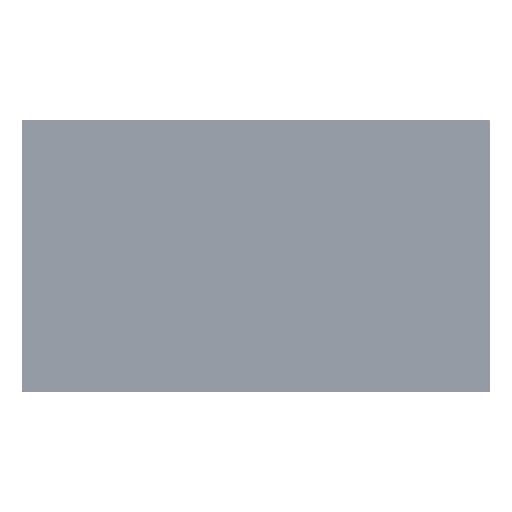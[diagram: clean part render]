
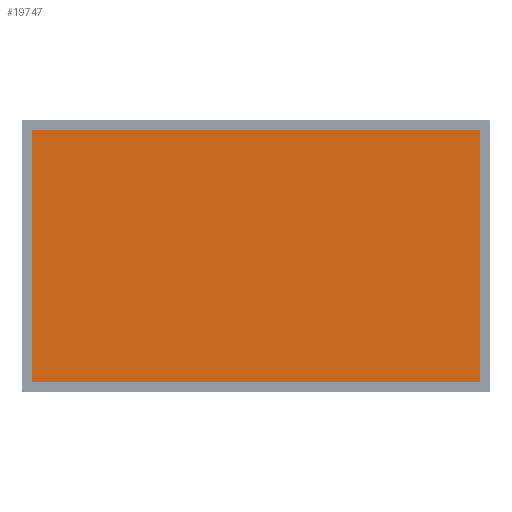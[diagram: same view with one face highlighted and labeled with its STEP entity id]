
A CAD part, top view. The second image highlights one B-rep face of the part: STEP entity #19747.
In plain terms, the highlighted planar face has unit normal (0, 0, 1).
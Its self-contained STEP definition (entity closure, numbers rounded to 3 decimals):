
#19747 = ADVANCED_FACE ( 'NONE', ( #247108 ), #405140, .T. ) ;
#25936 = ORIENTED_EDGE ( 'NONE', *, *, #193835, .T. ) ;
#32882 = VERTEX_POINT ( 'NONE', #218483 ) ;
#61491 = EDGE_LOOP ( 'NONE', ( #25936, #304855, #456079, #141978 ) ) ;
#96922 = EDGE_CURVE ( 'NONE', #291989, #183544, #502128, .T. ) ;
#117907 = AXIS2_PLACEMENT_3D ( 'NONE', #129895, #443392, #371941 ) ;
#129895 = CARTESIAN_POINT ( 'NONE',  ( 0., 0., 2. ) ) ;
#132155 = LINE ( 'NONE', #481348, #443518 ) ;
#141978 = ORIENTED_EDGE ( 'NONE', *, *, #347734, .T. ) ;
#149877 = LINE ( 'NONE', #460819, #299765 ) ;
#160434 = DIRECTION ( 'NONE',  ( 0., 1., 0. ) ) ;
#168379 = LINE ( 'NONE', #247296, #264602 ) ;
#183544 = VERTEX_POINT ( 'NONE', #212435 ) ;
#188143 = DIRECTION ( 'NONE',  ( 0., -1., 0. ) ) ;
#191051 = CARTESIAN_POINT ( 'NONE',  ( -937.4, 527.9, 2. ) ) ;
#193835 = EDGE_CURVE ( 'NONE', #32882, #406806, #168379, .T. ) ;
#209059 = EDGE_CURVE ( 'NONE', #406806, #291989, #149877, .T. ) ;
#212435 = CARTESIAN_POINT ( 'NONE',  ( 937.4, -527.9, 2. ) ) ;
#218483 = CARTESIAN_POINT ( 'NONE',  ( 937.4, 527.9, 2. ) ) ;
#247108 = FACE_OUTER_BOUND ( 'NONE', #61491, .T. ) ;
#247296 = CARTESIAN_POINT ( 'NONE',  ( -937.4, 527.9, 2. ) ) ;
#264602 = VECTOR ( 'NONE', #323763, 1000. ) ;
#291989 = VERTEX_POINT ( 'NONE', #439854 ) ;
#299765 = VECTOR ( 'NONE', #188143, 1000. ) ;
#304855 = ORIENTED_EDGE ( 'NONE', *, *, #209059, .T. ) ;
#315898 = CARTESIAN_POINT ( 'NONE',  ( -937.4, -527.9, 2. ) ) ;
#323763 = DIRECTION ( 'NONE',  ( -1., 0., 0. ) ) ;
#347734 = EDGE_CURVE ( 'NONE', #183544, #32882, #132155, .T. ) ;
#371941 = DIRECTION ( 'NONE',  ( 1., 0., 0. ) ) ;
#389936 = DIRECTION ( 'NONE',  ( 1., 0., 0. ) ) ;
#405140 = PLANE ( 'NONE',  #117907 ) ;
#406806 = VERTEX_POINT ( 'NONE', #191051 ) ;
#439854 = CARTESIAN_POINT ( 'NONE',  ( -937.4, -527.9, 2. ) ) ;
#443392 = DIRECTION ( 'NONE',  ( 0., 0., 1. ) ) ;
#443518 = VECTOR ( 'NONE', #160434, 1000. ) ;
#456079 = ORIENTED_EDGE ( 'NONE', *, *, #96922, .T. ) ;
#460819 = CARTESIAN_POINT ( 'NONE',  ( -937.4, 527.9, 2. ) ) ;
#468563 = VECTOR ( 'NONE', #389936, 1000. ) ;
#481348 = CARTESIAN_POINT ( 'NONE',  ( 937.4, 527.9, 2. ) ) ;
#502128 = LINE ( 'NONE', #315898, #468563 ) ;
